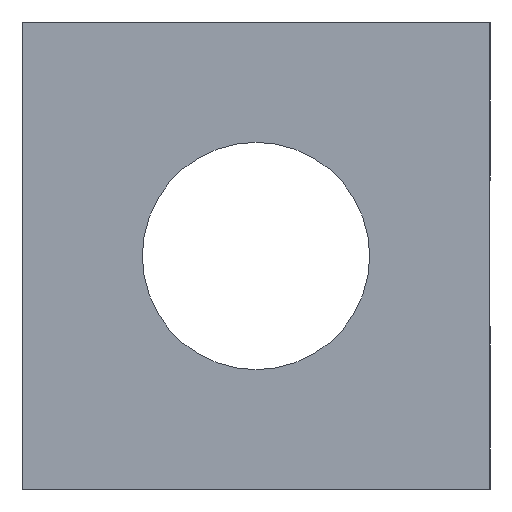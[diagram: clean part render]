
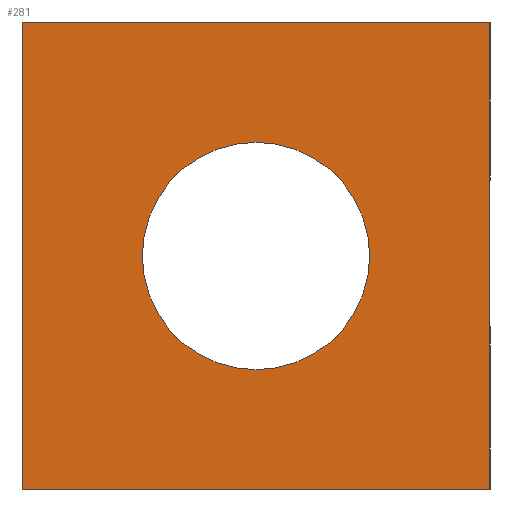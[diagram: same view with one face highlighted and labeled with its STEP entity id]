
A CAD part, front view. The second image highlights one B-rep face of the part: STEP entity #281.
In plain terms, the highlighted planar face has unit normal (0, -1, 0).
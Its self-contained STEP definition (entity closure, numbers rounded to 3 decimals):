
#1 = ORIENTED_EDGE ( 'NONE', *, *, #253, .F. ) ;
#2 = ORIENTED_EDGE ( 'NONE', *, *, #244, .F. ) ;
#3 = ORIENTED_EDGE ( 'NONE', *, *, #261, .F. ) ;
#4 = ORIENTED_EDGE ( 'NONE', *, *, #250, .F. ) ;
#5 = ORIENTED_EDGE ( 'NONE', *, *, #258, .F. ) ;
#25 = EDGE_LOOP ( 'NONE', ( #4, #5, #306, #1 ) ) ;
#29 = EDGE_LOOP ( 'NONE', ( #2, #3 ) ) ;
#34 = CIRCLE ( 'NONE', #265, 3.4 ) ;
#43 = LINE ( 'NONE', #359, #149 ) ;
#52 = CARTESIAN_POINT ( 'NONE',  ( 0., 0., 0. ) ) ;
#53 = DIRECTION ( 'NONE',  ( 0., -1., 0. ) ) ;
#54 = DIRECTION ( 'NONE',  ( 0., 0., -1. ) ) ;
#63 = PLANE ( 'NONE',  #270 ) ;
#65 = CARTESIAN_POINT ( 'NONE',  ( 0., 0., 0. ) ) ;
#67 = DIRECTION ( 'NONE',  ( 0., -1., 0. ) ) ;
#68 = DIRECTION ( 'NONE',  ( 0., 0., -1. ) ) ;
#98 = CARTESIAN_POINT ( 'NONE',  ( 7., 0., -7. ) ) ;
#103 = CARTESIAN_POINT ( 'NONE',  ( 0., 0., 3.4 ) ) ;
#104 = CARTESIAN_POINT ( 'NONE',  ( -7., 0., 7. ) ) ;
#106 = CARTESIAN_POINT ( 'NONE',  ( -7., 0., -7. ) ) ;
#107 = CARTESIAN_POINT ( 'NONE',  ( 7., 0., 7. ) ) ;
#113 = CARTESIAN_POINT ( 'NONE',  ( 0., 0., -3.4 ) ) ;
#149 = VECTOR ( 'NONE', #360, 1000. ) ;
#153 = VECTOR ( 'NONE', #370, 1000. ) ;
#154 = LINE ( 'NONE', #365, #153 ) ;
#155 = LINE ( 'NONE', #375, #158 ) ;
#156 = LINE ( 'NONE', #388, #160 ) ;
#158 = VECTOR ( 'NONE', #386, 1000. ) ;
#160 = VECTOR ( 'NONE', #291, 1000. ) ;
#163 = CIRCLE ( 'NONE', #269, 3.4 ) ;
#164 = FACE_OUTER_BOUND ( 'NONE', #25, .T. ) ;
#167 = FACE_BOUND ( 'NONE', #29, .T. ) ;
#244 = EDGE_CURVE ( 'NONE', #394, #402, #34, .T. ) ;
#250 = EDGE_CURVE ( 'NONE', #392, #298, #43, .T. ) ;
#253 = EDGE_CURVE ( 'NONE', #298, #301, #154, .T. ) ;
#256 = EDGE_CURVE ( 'NONE', #301, #396, #155, .T. ) ;
#258 = EDGE_CURVE ( 'NONE', #396, #392, #156, .T. ) ;
#261 = EDGE_CURVE ( 'NONE', #402, #394, #163, .T. ) ;
#265 = AXIS2_PLACEMENT_3D ( 'NONE', #347, #348, #349 ) ;
#269 = AXIS2_PLACEMENT_3D ( 'NONE', #52, #53, #54 ) ;
#270 = AXIS2_PLACEMENT_3D ( 'NONE', #65, #67, #68 ) ;
#281 = ADVANCED_FACE ( 'NONE', ( #167, #164 ), #63, .T. ) ;
#291 = DIRECTION ( 'NONE',  ( 1., 0., 0. ) ) ;
#298 = VERTEX_POINT ( 'NONE', #98 ) ;
#301 = VERTEX_POINT ( 'NONE', #106 ) ;
#306 = ORIENTED_EDGE ( 'NONE', *, *, #256, .F. ) ;
#347 = CARTESIAN_POINT ( 'NONE',  ( 0., 0., 0. ) ) ;
#348 = DIRECTION ( 'NONE',  ( 0., -1., 0. ) ) ;
#349 = DIRECTION ( 'NONE',  ( 0., 0., -1. ) ) ;
#359 = CARTESIAN_POINT ( 'NONE',  ( 7., 0., 7. ) ) ;
#360 = DIRECTION ( 'NONE',  ( 0., 0., -1. ) ) ;
#365 = CARTESIAN_POINT ( 'NONE',  ( -7., 0., -7. ) ) ;
#370 = DIRECTION ( 'NONE',  ( -1., 0., 0. ) ) ;
#375 = CARTESIAN_POINT ( 'NONE',  ( -7., 0., 7. ) ) ;
#386 = DIRECTION ( 'NONE',  ( 0., 0., 1. ) ) ;
#388 = CARTESIAN_POINT ( 'NONE',  ( -7., 0., 7. ) ) ;
#392 = VERTEX_POINT ( 'NONE', #107 ) ;
#394 = VERTEX_POINT ( 'NONE', #103 ) ;
#396 = VERTEX_POINT ( 'NONE', #104 ) ;
#402 = VERTEX_POINT ( 'NONE', #113 ) ;
